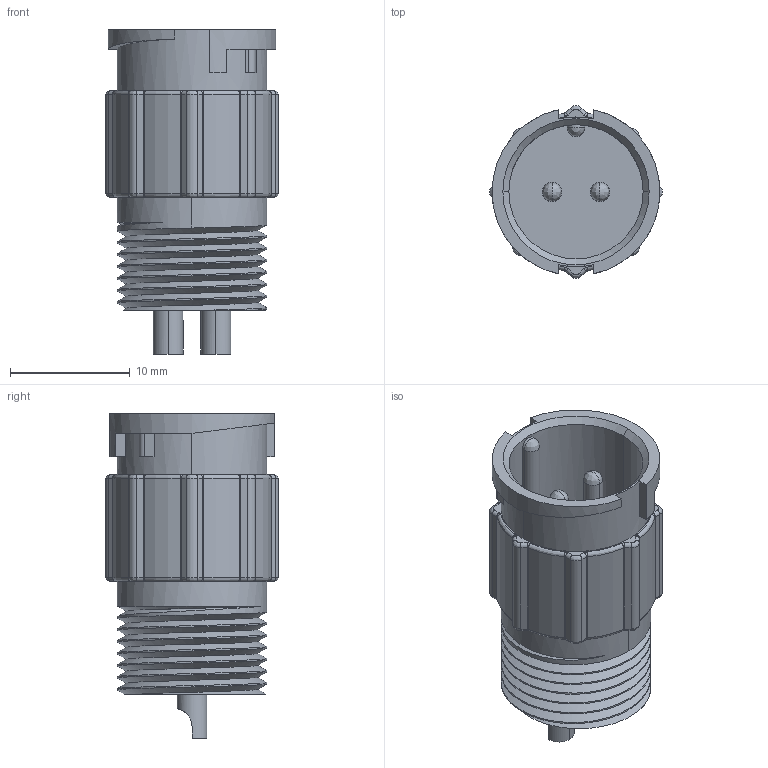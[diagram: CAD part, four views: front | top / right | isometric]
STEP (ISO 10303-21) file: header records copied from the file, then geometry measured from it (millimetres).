
FILE_DESCRIPTION (( 'STEP AP203' ), '1' );
FILE_NAME ('868-02A-103R001.STEP', '2025-12-23T16:02:58', ( '' ), ( '' ), 'SwSTEP 2.0', 'SolidWorks 2020', '' );
FILE_SCHEMA (( 'CONFIG_CONTROL_DESIGN' ));
Length unit declared in the file: millimetre
Products named in the file (1): 868-02A-103R001
Bounding box: 14.39 x 14.39 x 27.1 mm (x, y, z)
Volume: 1977.1 mm3; surface area: 2325.4 mm2
Topology: 1 solids, 1 shells, 262 faces, 631 edges, 372 vertices
Faces by surface type: cylinder 115, bspline 80, plane 48, cone 19
Entity records: 13715 total; most frequent: CARTESIAN_POINT 8062, ORIENTED_EDGE 1244, DIRECTION 1087, EDGE_CURVE 622, AXIS2_PLACEMENT_3D 427, VERTEX_POINT 372, EDGE_LOOP 272, FACE_OUTER_BOUND 262
